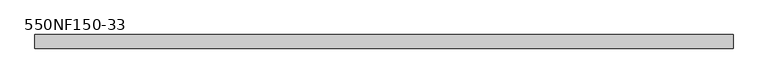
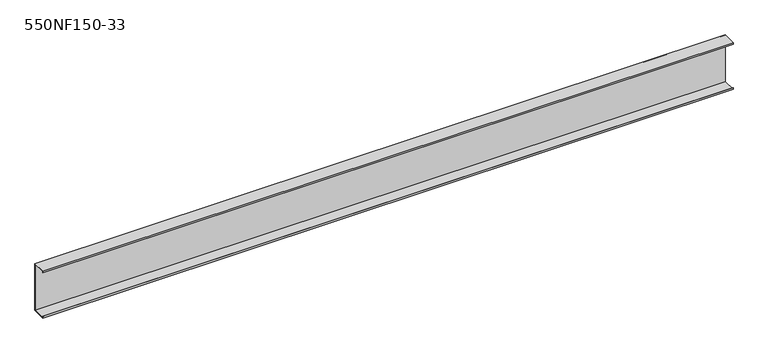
"""IFC4 building model written with IfcOpenShell, lengths in millimetres: beam geometry, BIMSF-SSMA-S : 550NF150-33."""

from ifc_helpers import new_model, si_unit, frame, origin, place, context, project, spatial, polyline, outline, extrude, source, transform, mapped, element, save


def beam_550nf150_33_ca42a238(model_context):
    return source(origin(), model_context, "Body", "SweptSolid", [
        extrude(outline(polyline([(19.05, 69.85), (19.05, -69.85), (-19.05, -69.85), (-19.05, -65.0748), (-18.1676842, -65.0748), (-18.1676842, -68.9676842), (18.1676842, -68.9676842), (18.1676842, 68.9676842), (-18.1676842, 68.9676842), (-18.1676842, 65.0748), (-19.05, 65.0748), (-19.05, 69.85), (19.05, 69.85)])), frame((-975.51875, 0.0, 0.0), z_axis=(1.0, 0.0, 0.0), x_axis=(0.0, 1.0, 0.0)), (0.0, 0.0, 1.0), 1951.0375),
    ])


if __name__ == "__main__":
    model = new_model("IFC4")
    model_context = context("Model", 3, world=origin())
    ifc_project = project(units=[si_unit("LENGTHUNIT", "METRE", prefix="MILLI")], contexts=[model_context])
    site = spatial("IfcSite", under=ifc_project)
    building = spatial("IfcBuilding", under=site)
    placement = place(None, origin())
    beam_550nf150_33_shape = beam_550nf150_33_ca42a238(model_context)
    element("IfcBeam", 1, ObjectType="BIMSF-SSMA-S : 550NF150-33", at=placement, inside=building, context=model_context, shape_type="MappedRepresentation", body=[
        mapped(beam_550nf150_33_shape, transform((0.0, 0.0, 0.0), x_axis=(1.0, 0.0, 0.0), y_axis=(0.0, 1.0, 0.0), z_axis=(0.0, 0.0, 1.0))),
    ])
    save(model, "model.ifc")
